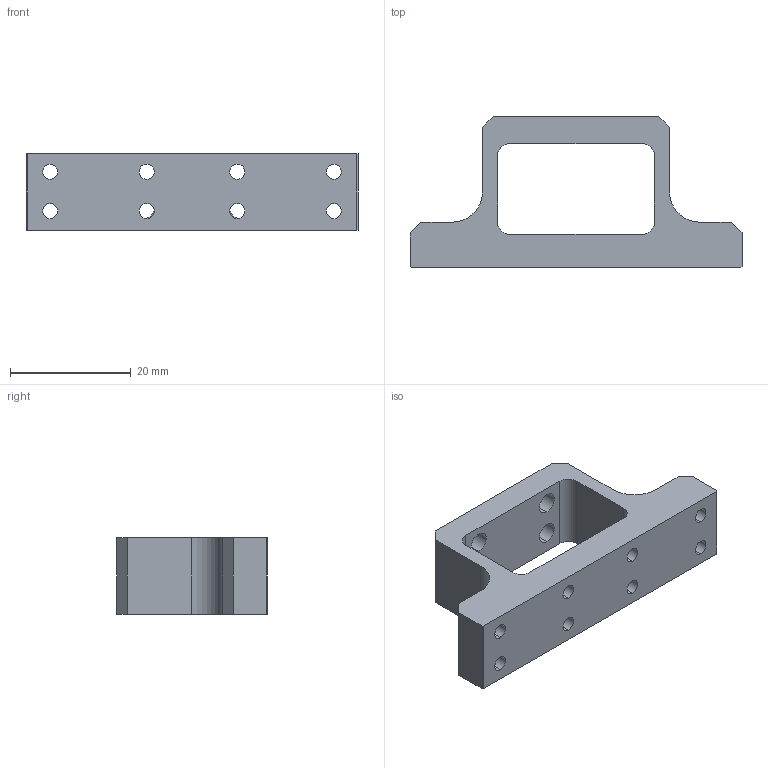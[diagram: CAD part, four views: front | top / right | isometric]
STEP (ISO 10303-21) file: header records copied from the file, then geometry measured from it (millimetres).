
FILE_DESCRIPTION (( 'STEP AP214' ), '1' );
FILE_NAME ('QC90-孺桯盓殤.STEP', '2021-05-24T09:42:41', ( 'admin' ), ( '' ), 'SwSTEP 2.0', 'SolidWorks 2018', '' );
FILE_SCHEMA (( 'AUTOMOTIVE_DESIGN' ));
Length unit declared in the file: millimetre
Products named in the file (1): QC90-孺桯盓殤
Bounding box: 55 x 25 x 12.7 mm (x, y, z)
Volume: 6844.1 mm3; surface area: 4514.8 mm2
Topology: 1 solids, 1 shells, 50 faces, 144 edges, 96 vertices
Faces by surface type: cylinder 30, plane 20
Entity records: 1930 total; most frequent: DIRECTION 306, CARTESIAN_POINT 291, ORIENTED_EDGE 288, EDGE_CURVE 144, AXIS2_PLACEMENT_3D 111, VERTEX_POINT 96, VECTOR 84, LINE 84
